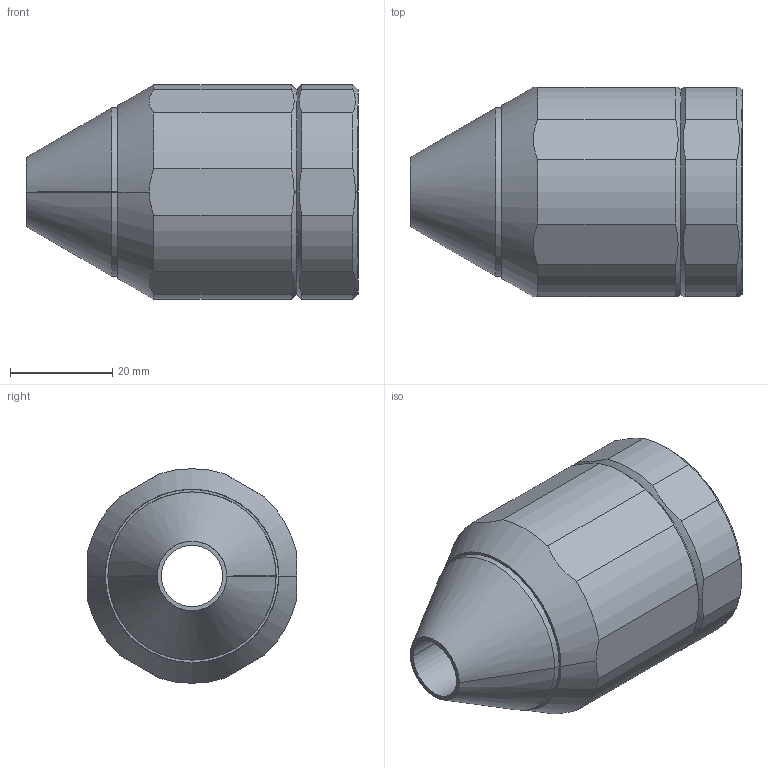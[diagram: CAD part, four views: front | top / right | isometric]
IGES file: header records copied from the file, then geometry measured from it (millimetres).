
Start section: SolidWorks IGES file using analytic representation for surfaces
Global section: file name: G:\SILVENT AB\ENGINEERING\Drawings\ÖVRIGT\IGES\Silvent 745 L.IGS; native system: SolidWorks 2016; preprocessor: SolidWorks 2016; author: R.Tibell; date: 210301.064504; units: millimetre
Bounding box: 65 x 41 x 42 mm (x, y, z)
Surface area: 13478.2 mm2 (no closed solid volume)
Topology: 0 solids, 0 shells, 44 faces, 760 edges, 760 vertices
Faces by surface type: revolution 28, bspline 16
